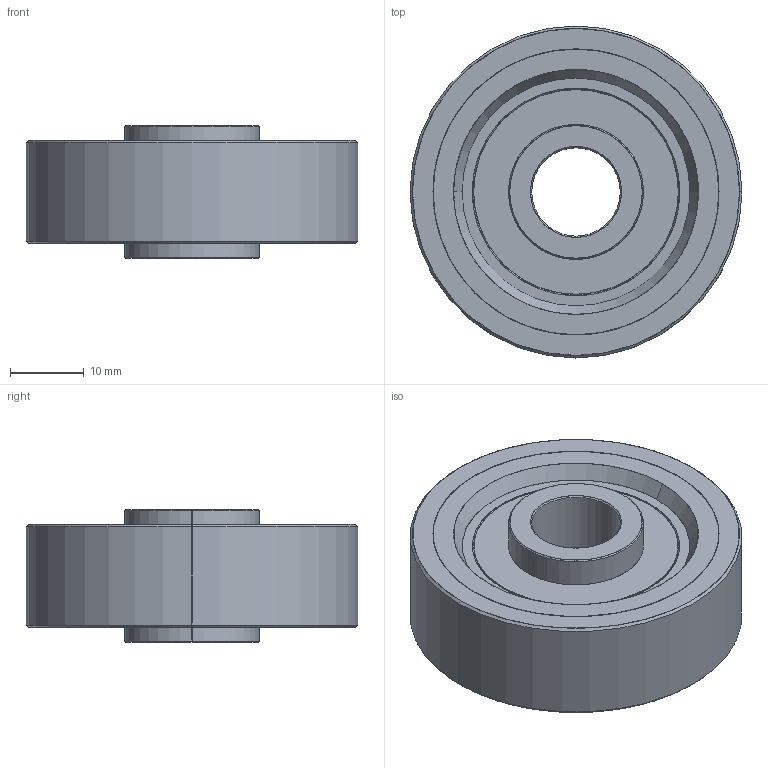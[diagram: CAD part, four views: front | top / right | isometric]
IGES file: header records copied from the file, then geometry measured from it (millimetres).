
Start section: SolidWorks IGES file using analytic representation for surfaces
Global section: file name: X:\11_SW2020-Inv2020\00_全2021-11新製品まで\c\CTG-BR45D\ctg-br45d.IGS; native system: SolidWorks 2020; preprocessor: SolidWorks 2020; author: ImaoCorp; date: 211026.084219; units: millimetre
Bounding box: 45 x 45 x 18 mm (x, y, z)
Surface area: 6285.5 mm2 (no closed solid volume)
Topology: 0 solids, 0 shells, 52 faces, 1504 edges, 1504 vertices
Faces by surface type: revolution 40, bspline 12
